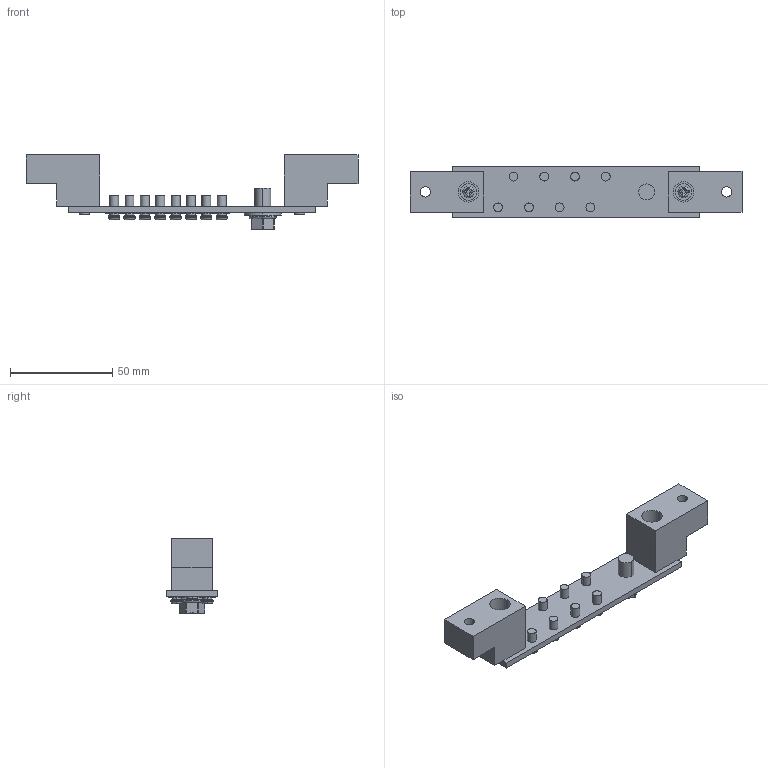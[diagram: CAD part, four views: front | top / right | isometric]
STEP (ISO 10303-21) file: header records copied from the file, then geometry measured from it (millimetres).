
FILE_DESCRIPTION(('Creo Elements/Direct Modeling STEP Export'),'2;1');
FILE_NAME('9N.stp','2025-07-23T16:35:13',(''),(''),'PTC Creo Elements/Direct Modeling STEP processor for AP214 (Solid Model)','PTC Creo Elements/Direct Modeling 19.0 09-May-2014 (C) Parametric Technology GmbH','');
FILE_SCHEMA(('AUTOMOTIVE_DESIGN { 1 0 10303 214 1 1 1 1 }'));
Length unit declared in the file: millimetre
Products named in the file (19): QUILT_3-34740.PRT; QUILT_2-34360.PRT; QUILT_1-14960.PRT; USER_LIBRARY-SAN_ZU_HE_LUO-2060.PRT; M5_1_1_1_1_1_1_1_1_2.ASM; QUILT_3-85900.PRT; QUILT_2-85520.PRT; QUILT_1-66120.PRT; USER_LIBRARY-SAN_ZU_HE_LU-53220.PRT; M5_1_1_1_1_1_1_1_1_1_1_1_1_1_1.ASM; SCREW_1_2_PRT.PRT; SCREW_1_1_PRT.PRT; SCREW_1_ASM.ASM; SCREW_0723_STP.ASM; A1.ASM; HOLD_1.PRT; CU.PRT; 17N_1.ASM; 9N
Assembly tree (27 placements, depth 5):
  9N
    17N_1.ASM
      CU.PRT
      HOLD_1.PRT  x2
      M5_1_1_1_1_1_1_1_1_2.ASM  x4
        USER_LIBRARY-SAN_ZU_HE_LUO-2060.PRT
        QUILT_1-14960.PRT
        QUILT_2-34360.PRT
        QUILT_3-34740.PRT
      A1.ASM
        M5_1_1_1_1_1_1_1_1_2.ASM  x4
          USER_LIBRARY-SAN_ZU_HE_LUO-2060.PRT
          QUILT_1-14960.PRT
          QUILT_2-34360.PRT
          QUILT_3-34740.PRT
      SCREW_0723_STP.ASM
        SCREW_1_ASM.ASM
          SCREW_1_1_PRT.PRT
          SCREW_1_2_PRT.PRT
      M5_1_1_1_1_1_1_1_1_1_1_1_1_1_1.ASM  x2
        USER_LIBRARY-SAN_ZU_HE_LU-53220.PRT
        QUILT_1-66120.PRT
        QUILT_2-85520.PRT
        QUILT_3-85900.PRT
Bounding box: 162 x 25 x 36.2 mm (x, y, z)
Volume: 36482 mm3; surface area: 21698.9 mm2
Topology: 25 solids, 25 shells, 502 faces, 1260 edges, 826 vertices
Faces by surface type: plane 282, cylinder 176, torus 44
Entity records: 6318 total; most frequent: CARTESIAN_POINT 1015, DIRECTION 870, ORIENTED_EDGE 868, EDGE_CURVE 434, AXIS2_PLACEMENT_3D 319, VERTEX_POINT 286, VECTOR 232, LINE 232
